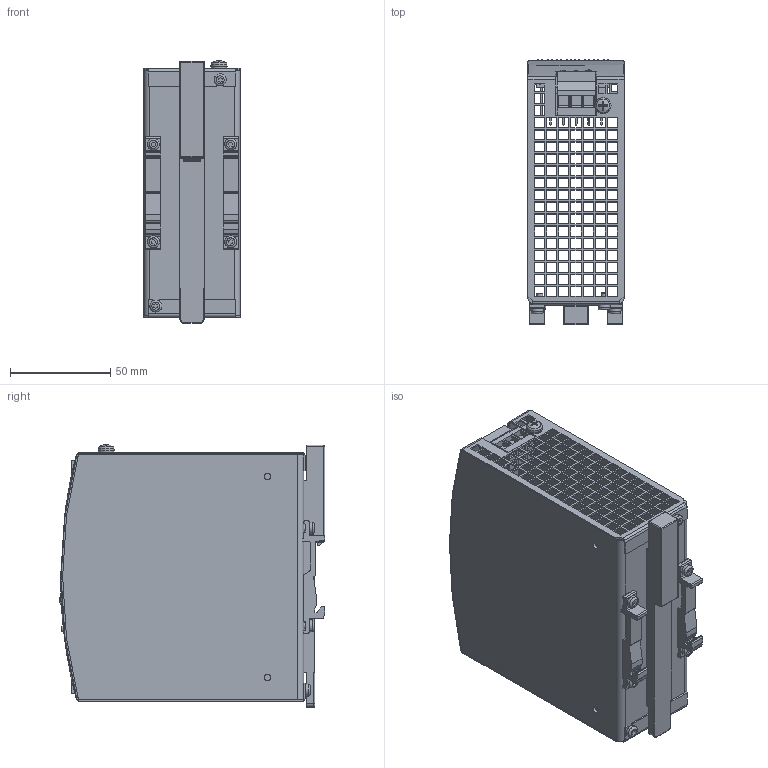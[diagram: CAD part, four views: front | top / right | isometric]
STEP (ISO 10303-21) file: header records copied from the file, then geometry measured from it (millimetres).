
FILE_DESCRIPTION(/* description */ (''),/* implementation_level */ '2;1');
FILE_NAME(/* name */ 'L:\Technische-Dokumentation\Daten von KO\Internet\CP20.248 (AN-426.18)\md3_cp20_248.stp',/* time_stamp */ '2020-02-17T11:02:38+01:00',/* author */ ('rahns'),/* organization */ (''),/* preprocessor_version */ 'ST-DEVELOPER v18',/* originating_system */ 'Autodesk Inventor 2020',/* authorisation */ '');
FILE_SCHEMA (('AUTOMOTIVE_DESIGN { 1 0 10303 214 3 1 1 }'));
Products named in the file (15): 426.18; HOUSING BODY 426.18; HOUSING COVER 426.18; FRONTFOIL 426.18; ED-B40_127-A2; ED-4008_7985-10; MKT_SLIDER; MKT_T HOLDER1; MKT_SCREW 3x6; MKT_LP2SW-R6; MKT_LP2BK-D1; MKT_LP3BK-D1; FRONTFOIL 426.18_DISPLAY; MKT-DRUCK_A-C3; MKT_POTI
Assembly tree (24 placements, depth 2):
  426.18
    HOUSING BODY 426.18
    HOUSING COVER 426.18
    FRONTFOIL 426.18
    ED-B40_127-A2
    ED-4008_7985-10
    MKT_SLIDER
    MKT_SCREW 3x6  x6
    MKT_T HOLDER1  x2
    MKT_LP2SW-R6  x4
    MKT_LP2BK-D1
    MKT_LP3BK-D1  x2
    FRONTFOIL 426.18_DISPLAY
    MKT-DRUCK_A-C3
    MKT_POTI
Bounding box: 48 x 132.2 x 130.77 mm (x, y, z)
Volume: 88704.4 mm3; surface area: 122382.6 mm2
Topology: 30 solids, 30 shells, 3675 faces, 10092 edges, 6720 vertices
Faces by surface type: plane 2761, bspline 448, cylinder 398, cone 38, torus 21, sphere 9
Full cylindrical faces by diameter (mm): 0.3 x16, 0.5 x3, 0.9 x2, 1.5 x1, 2.45 x2, 2.7 x1, 3 x6, 3.05 x1, 3.1 x4, 3.2 x3, 3.44 x1, 3.621 x1, 3.8 x1, 4 x1, 4.7 x1, 5.15 x8, 5.5 x2, 6 x6
Entity records: 116776 total; most frequent: CARTESIAN_POINT 36916, ORIENTED_EDGE 17248, DIRECTION 14166, EDGE_CURVE 8624, LINE 6502, VECTOR 6502, VERTEX_POINT 5744, AXIS2_PLACEMENT_3D 3832
